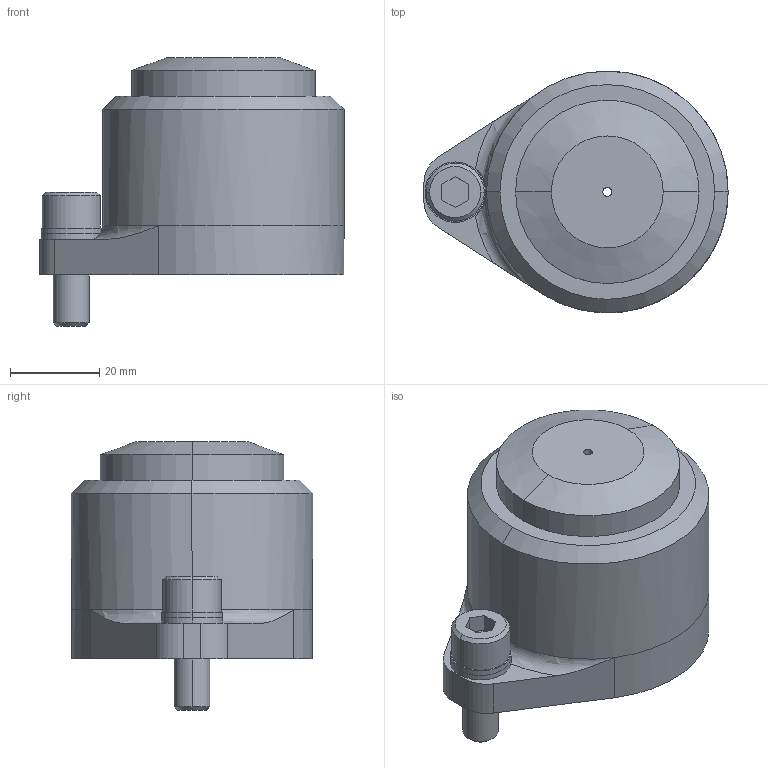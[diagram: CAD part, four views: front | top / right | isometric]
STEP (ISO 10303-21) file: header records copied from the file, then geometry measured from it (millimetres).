
FILE_DESCRIPTION(/* description */ (''),/* implementation_level */ '2;1');
FILE_NAME(/* name */ '3d_sprb16-g_05391_r00.stp',/* time_stamp */ '2011-01-10T14:10:08+09:00',/* author */ ('MISUMI'),/* organization */ (''),/* preprocessor_version */ 'ST-DEVELOPER v11',/* originating_system */ 'UGS - NX 5.0',/* authorisation */ '');
FILE_SCHEMA (('CONFIG_CONTROL_DESIGN'));
Length unit declared in the file: millimetre
Products named in the file (1): 3d_sprb16-g_05391_r00
Bounding box: 68 x 54 x 60.1 mm (x, y, z)
Volume: 92746.8 mm3; surface area: 35397.8 mm2
Topology: 6 solids, 6 shells, 74 faces, 164 edges, 106 vertices
Faces by surface type: cylinder 38, plane 26, cone 8, torus 2
Entity records: 2188 total; most frequent: DIRECTION 398, CARTESIAN_POINT 365, ORIENTED_EDGE 328, EDGE_CURVE 164, AXIS2_PLACEMENT_3D 163, VERTEX_POINT 106, EDGE_LOOP 90, CIRCLE 88
